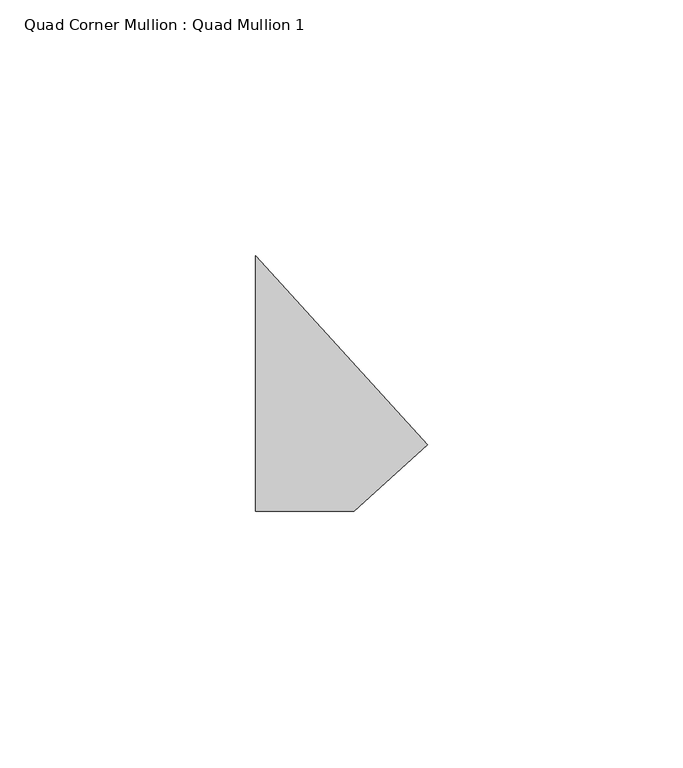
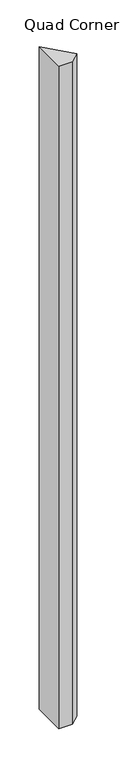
"""IFC4 building model written with IfcOpenShell, lengths in millimetres: member geometry, Quad Corner Mullion : Quad Mullion 1."""

from ifc_helpers import new_model, si_unit, frame, origin, place, context, project, spatial, polyline, outline, extrude, source, transform, mapped, element, save


def quad_corner_mullion_quad_mullion_1_1152f7f1(model_context):
    return source(origin(), model_context, "Body", "SweptSolid", [
        extrude(outline(polyline([(23.9566159, -12.0146065), (9.6576505, -25.0), (-9.6576505, -25.0), (-9.6576505, 25.0), (23.9566159, -12.0146065)])), frame((0.0, 0.0, -1030.0), z_axis=(0.0, 0.0, 1.0), x_axis=(1.0, 0.0, 0.0)), (0.0, 0.0, 1.0), 1030.0),
    ])


if __name__ == "__main__":
    model = new_model("IFC4")
    model_context = context("Model", 3, world=origin())
    ifc_project = project(units=[si_unit("LENGTHUNIT", "METRE", prefix="MILLI")], contexts=[model_context])
    site = spatial("IfcSite", under=ifc_project)
    building = spatial("IfcBuilding", under=site)
    placement = place(None, origin())
    quad_corner_mullion_quad_mullion_1_shape = quad_corner_mullion_quad_mullion_1_1152f7f1(model_context)
    element("IfcMember", 1, ObjectType="Quad Corner Mullion : Quad Mullion 1", at=placement, inside=building, context=model_context, shape_type="MappedRepresentation", body=[
        mapped(quad_corner_mullion_quad_mullion_1_shape, transform((0.0, 0.0, 0.0), x_axis=(1.0, 0.0, 0.0), y_axis=(0.0, 1.0, 0.0), z_axis=(0.0, 0.0, 1.0))),
    ])
    save(model, "model.ifc")
